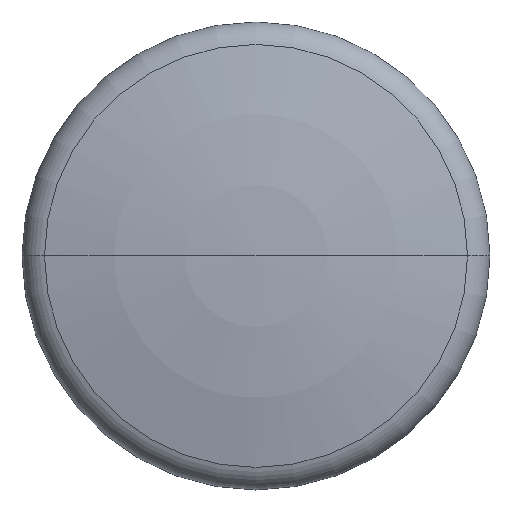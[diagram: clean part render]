
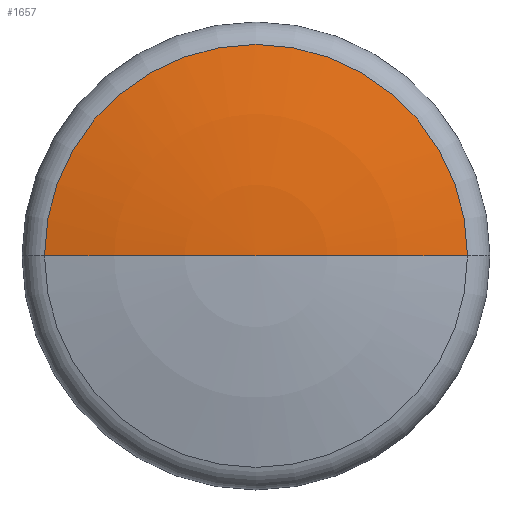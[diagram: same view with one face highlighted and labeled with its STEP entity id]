
A CAD part, top view. The second image highlights one B-rep face of the part: STEP entity #1657.
In plain terms, the highlighted toroidal (fillet/blend) face has major radius 0.782 mm and minor radius 75 mm.
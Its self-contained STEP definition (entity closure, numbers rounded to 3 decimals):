
#13 = EDGE_CURVE ( 'NONE', #216, #1518, #2190, .T. ) ;
#44 = AXIS2_PLACEMENT_3D ( 'NONE', #2197, #476, #729 ) ;
#88 = CARTESIAN_POINT ( 'NONE',  ( -18.076, 0., 29.483 ) ) ;
#130 = AXIS2_PLACEMENT_3D ( 'NONE', #770, #2475, #1017 ) ;
#216 = VERTEX_POINT ( 'NONE', #1985 ) ;
#326 = EDGE_CURVE ( 'NONE', #2136, #216, #939, .T. ) ;
#476 = DIRECTION ( 'NONE',  ( 0., 0., 1. ) ) ;
#558 = CIRCLE ( 'NONE', #130, 75. ) ;
#592 = EDGE_CURVE ( 'NONE', #2136, #1518, #558, .T. ) ;
#706 = DIRECTION ( 'NONE',  ( -1., 0., 0. ) ) ;
#729 = DIRECTION ( 'NONE',  ( -1., 0., 0. ) ) ;
#770 = CARTESIAN_POINT ( 'NONE',  ( -0.782, 0., -43.496 ) ) ;
#836 = DIRECTION ( 'NONE',  ( -1., 0., 0. ) ) ;
#838 = AXIS2_PLACEMENT_3D ( 'NONE', #954, #3130, #706 ) ;
#939 = CIRCLE ( 'NONE', #838, 75. ) ;
#954 = CARTESIAN_POINT ( 'NONE',  ( 0.782, 0., -43.496 ) ) ;
#997 = ORIENTED_EDGE ( 'NONE', *, *, #592, .F. ) ;
#1017 = DIRECTION ( 'NONE',  ( 0., 0., -1. ) ) ;
#1112 = CARTESIAN_POINT ( 'NONE',  ( 0., 0., -43.496 ) ) ;
#1518 = VERTEX_POINT ( 'NONE', #88 ) ;
#1657 = ADVANCED_FACE ( 'NONE', ( #2300 ), #2074, .T. ) ;
#1771 = ORIENTED_EDGE ( 'NONE', *, *, #326, .T. ) ;
#1985 = CARTESIAN_POINT ( 'NONE',  ( 18.076, 0., 29.483 ) ) ;
#2074 = TOROIDAL_SURFACE ( 'NONE', #2330, 0.782, 75. ) ;
#2136 = VERTEX_POINT ( 'NONE', #2711 ) ;
#2190 = CIRCLE ( 'NONE', #44, 18.076 ) ;
#2197 = CARTESIAN_POINT ( 'NONE',  ( 0., 0., 29.483 ) ) ;
#2295 = DIRECTION ( 'NONE',  ( 0., 0., -1. ) ) ;
#2300 = FACE_OUTER_BOUND ( 'NONE', #2523, .T. ) ;
#2330 = AXIS2_PLACEMENT_3D ( 'NONE', #1112, #2295, #836 ) ;
#2475 = DIRECTION ( 'NONE',  ( 0., -1., 0. ) ) ;
#2523 = EDGE_LOOP ( 'NONE', ( #997, #1771, #3034 ) ) ;
#2711 = CARTESIAN_POINT ( 'NONE',  ( 0., 0., 31.5 ) ) ;
#3034 = ORIENTED_EDGE ( 'NONE', *, *, #13, .T. ) ;
#3130 = DIRECTION ( 'NONE',  ( 0., 1., 0. ) ) ;
